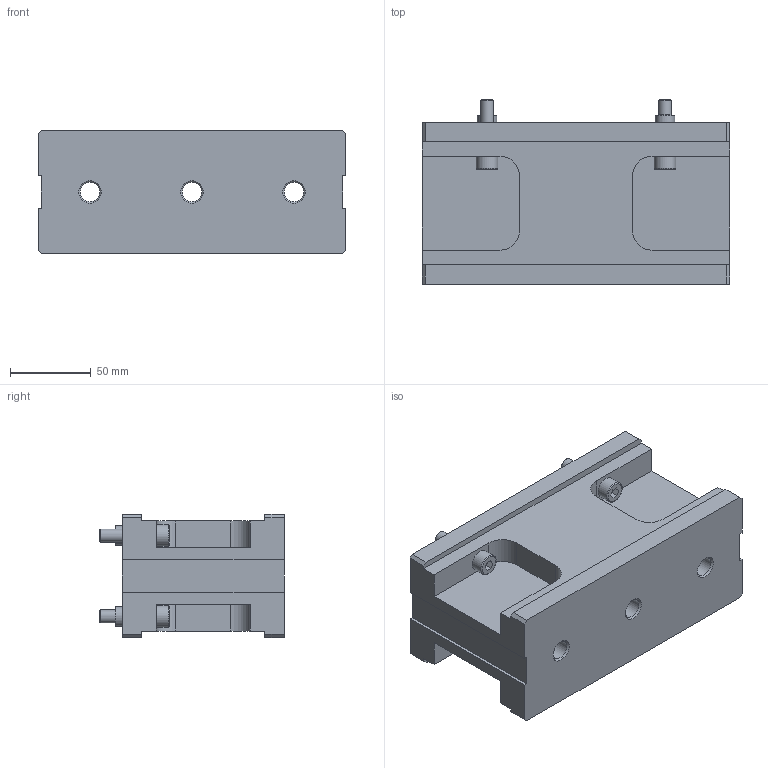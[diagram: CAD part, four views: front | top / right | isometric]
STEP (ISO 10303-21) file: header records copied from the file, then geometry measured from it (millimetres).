
FILE_DESCRIPTION (( 'STEP AP214' ), '1' );
FILE_NAME ('6921525020131.STEP', '2023-12-05T05:36:24', ( '' ), ( '' ), 'SwSTEP 2.0', 'SolidWorks 2021', '' );
FILE_SCHEMA (( 'AUTOMOTIVE_DESIGN' ));
Length unit declared in the file: millimetre
Products named in the file (4): 6921525020100; 6921525020131; 8159000810000; 8006100835050_ISO 4762 M6 x 16
Assembly tree (7 placements, depth 2):
  6921525020131
    6921525020100
    8159000810000  x2
    8006100835050_ISO 4762 M6 x 16  x4
Bounding box: 190 x 114 x 76 mm (x, y, z)
Volume: 987502.7 mm3; surface area: 120320.8 mm2
Topology: 7 solids, 7 shells, 185 faces, 429 edges, 267 vertices
Faces by surface type: plane 115, cylinder 32, cone 24, torus 14
Full cylindrical faces by diameter (mm): 8 x6, 9 x4, 12 x7, 13.27 x4, 25 x3
Entity records: 3298 total; most frequent: DIRECTION 542, CARTESIAN_POINT 523, ORIENTED_EDGE 468, EDGE_CURVE 234, AXIS2_PLACEMENT_3D 189, VERTEX_POINT 170, VECTOR 164, LINE 164
